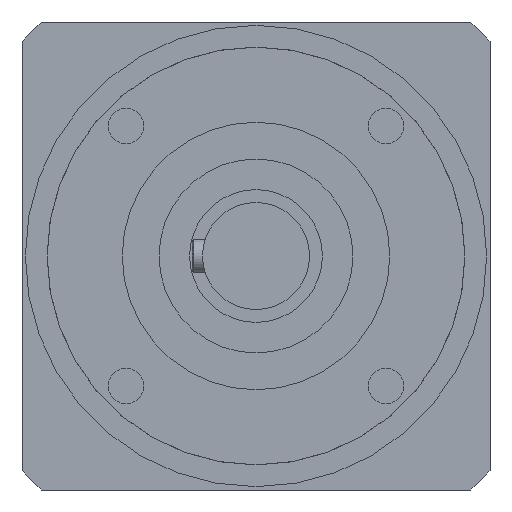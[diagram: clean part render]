
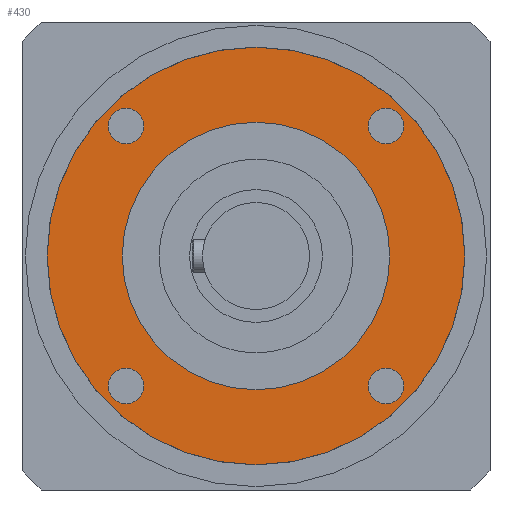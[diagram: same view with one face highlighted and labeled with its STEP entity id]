
A CAD part, left-side view. The second image highlights one B-rep face of the part: STEP entity #430.
In plain terms, the highlighted planar face has unit normal (-1, 0, 0).
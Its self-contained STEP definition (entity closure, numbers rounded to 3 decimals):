
#299=FACE_BOUND('',#619,.T.);
#300=FACE_BOUND('',#620,.T.);
#301=FACE_BOUND('',#621,.T.);
#302=FACE_BOUND('',#622,.T.);
#303=FACE_BOUND('',#623,.T.);
#304=FACE_BOUND('',#624,.T.);
#430=ADVANCED_FACE('',(#299,#300,#301,#302,#303,#304),#530,.T.);
#530=PLANE('',#1438);
#619=EDGE_LOOP('',(#783));
#620=EDGE_LOOP('',(#784));
#621=EDGE_LOOP('',(#785));
#622=EDGE_LOOP('',(#786));
#623=EDGE_LOOP('',(#787));
#624=EDGE_LOOP('',(#788));
#783=ORIENTED_EDGE('',*,*,#1198,.F.);
#784=ORIENTED_EDGE('',*,*,#1199,.F.);
#785=ORIENTED_EDGE('',*,*,#1200,.F.);
#786=ORIENTED_EDGE('',*,*,#1201,.F.);
#787=ORIENTED_EDGE('',*,*,#1195,.T.);
#788=ORIENTED_EDGE('',*,*,#1202,.F.);
#1071=VERTEX_POINT('',#2049);
#1074=VERTEX_POINT('',#2057);
#1075=VERTEX_POINT('',#2059);
#1076=VERTEX_POINT('',#2061);
#1077=VERTEX_POINT('',#2063);
#1078=VERTEX_POINT('',#2065);
#1195=EDGE_CURVE('',#1071,#1071,#1341,.T.);
#1198=EDGE_CURVE('',#1074,#1074,#1344,.T.);
#1199=EDGE_CURVE('',#1075,#1075,#1345,.T.);
#1200=EDGE_CURVE('',#1076,#1076,#1346,.T.);
#1201=EDGE_CURVE('',#1077,#1077,#1347,.T.);
#1202=EDGE_CURVE('',#1078,#1078,#1348,.T.);
#1341=CIRCLE('',#1428,40.);
#1344=CIRCLE('',#1433,5.29);
#1345=CIRCLE('',#1434,5.29);
#1346=CIRCLE('',#1435,5.29);
#1347=CIRCLE('',#1436,5.29);
#1348=CIRCLE('',#1437,62.5);
#1428=AXIS2_PLACEMENT_3D('',#2048,#1618,#1619);
#1433=AXIS2_PLACEMENT_3D('',#2056,#1628,#1629);
#1434=AXIS2_PLACEMENT_3D('',#2058,#1630,#1631);
#1435=AXIS2_PLACEMENT_3D('',#2060,#1632,#1633);
#1436=AXIS2_PLACEMENT_3D('',#2062,#1634,#1635);
#1437=AXIS2_PLACEMENT_3D('',#2064,#1636,#1637);
#1438=AXIS2_PLACEMENT_3D('',#2066,#1638,#1639);
#1618=DIRECTION('',(1.,0.,0.));
#1619=DIRECTION('',(0.,0.,-1.));
#1628=DIRECTION('',(-1.,0.,0.));
#1629=DIRECTION('',(0.,0.,-1.));
#1630=DIRECTION('',(-1.,0.,0.));
#1631=DIRECTION('',(0.,0.,-1.));
#1632=DIRECTION('',(-1.,0.,0.));
#1633=DIRECTION('',(0.,0.,-1.));
#1634=DIRECTION('',(-1.,0.,0.));
#1635=DIRECTION('',(0.,0.,-1.));
#1636=DIRECTION('',(1.,0.,0.));
#1637=DIRECTION('',(0.,0.,1.));
#1638=DIRECTION('',(-1.,0.,0.));
#1639=DIRECTION('',(0.,0.,-1.));
#2048=CARTESIAN_POINT('',(-126.,0.,0.));
#2049=CARTESIAN_POINT('',(-126.,0.,-40.));
#2056=CARTESIAN_POINT('',(-126.,-38.891,38.891));
#2057=CARTESIAN_POINT('',(-126.,-38.891,33.601));
#2058=CARTESIAN_POINT('',(-126.,38.891,38.891));
#2059=CARTESIAN_POINT('',(-126.,38.891,33.601));
#2060=CARTESIAN_POINT('',(-126.,38.891,-38.891));
#2061=CARTESIAN_POINT('',(-126.,38.891,-44.18));
#2062=CARTESIAN_POINT('',(-126.,-38.891,-38.891));
#2063=CARTESIAN_POINT('',(-126.,-38.891,-44.18));
#2064=CARTESIAN_POINT('',(-126.,0.,0.));
#2065=CARTESIAN_POINT('',(-126.,0.,62.5));
#2066=CARTESIAN_POINT('',(-126.,0.,0.));
